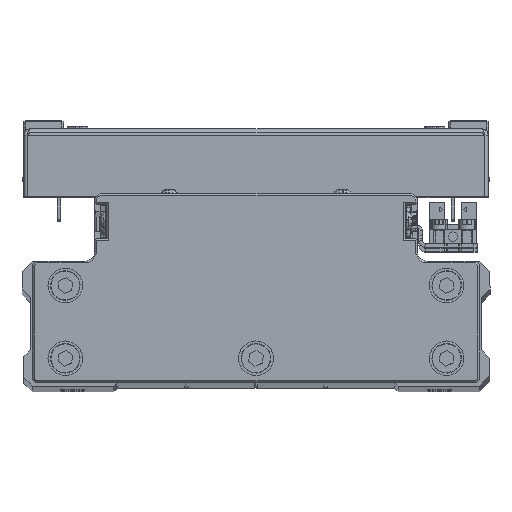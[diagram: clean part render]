
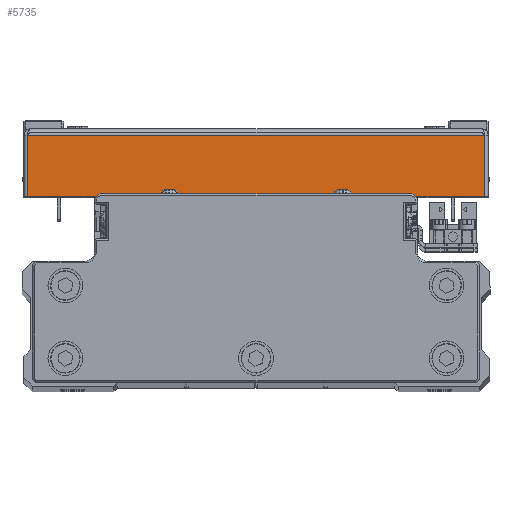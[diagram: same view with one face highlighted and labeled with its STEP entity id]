
A CAD part, top view. The second image highlights one B-rep face of the part: STEP entity #5735.
In plain terms, the highlighted planar face has unit normal (0, 0, 1) as drawn and (1, 0, 0) by its records, which use the part's own axes.
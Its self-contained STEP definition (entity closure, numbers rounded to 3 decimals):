
#267 = CARTESIAN_POINT ( 'NONE',  ( 100., 1., -65.929 ) ) ;
#5557 = CARTESIAN_POINT ( 'NONE',  ( 100., 0., 0. ) ) ;
#5735 = ADVANCED_FACE ( 'NONE', ( #22759 ), #36594, .F. ) ;
#7798 = CARTESIAN_POINT ( 'NONE',  ( 100., 1., 65.929 ) ) ;
#7964 = ORIENTED_EDGE ( 'NONE', *, *, #17321, .T. ) ;
#8862 = LINE ( 'NONE', #22665, #34352 ) ;
#9603 = VECTOR ( 'NONE', #11117, 1000. ) ;
#10581 = VECTOR ( 'NONE', #41647, 1000. ) ;
#11117 = DIRECTION ( 'NONE',  ( 0., 0., 1. ) ) ;
#13997 = LINE ( 'NONE', #27804, #10581 ) ;
#14792 = VECTOR ( 'NONE', #42636, 1000. ) ;
#14999 = LINE ( 'NONE', #28797, #14792 ) ;
#15170 = VERTEX_POINT ( 'NONE', #7798 ) ;
#15756 = EDGE_CURVE ( 'NONE', #32340, #42834, #8862, .T. ) ;
#17321 = EDGE_CURVE ( 'NONE', #42834, #24460, #28314, .T. ) ;
#19354 = DIRECTION ( 'NONE',  ( -1., 0., 0. ) ) ;
#22665 = CARTESIAN_POINT ( 'NONE',  ( 100., 0., -65.929 ) ) ;
#22759 = FACE_OUTER_BOUND ( 'NONE', #41400, .T. ) ;
#24460 = VERTEX_POINT ( 'NONE', #33550 ) ;
#25487 = ORIENTED_EDGE ( 'NONE', *, *, #33568, .F. ) ;
#27804 = CARTESIAN_POINT ( 'NONE',  ( 100., 0., 65.929 ) ) ;
#28235 = AXIS2_PLACEMENT_3D ( 'NONE', #5557, #19354, #33181 ) ;
#28314 = LINE ( 'NONE', #42156, #9603 ) ;
#28797 = CARTESIAN_POINT ( 'NONE',  ( 100., 1., 67. ) ) ;
#32340 = VERTEX_POINT ( 'NONE', #267 ) ;
#33181 = DIRECTION ( 'NONE',  ( 0., -1., 0. ) ) ;
#33550 = CARTESIAN_POINT ( 'NONE',  ( 100., 18.5, 65.929 ) ) ;
#33568 = EDGE_CURVE ( 'NONE', #32340, #15170, #14999, .T. ) ;
#34352 = VECTOR ( 'NONE', #36493, 1000. ) ;
#35589 = EDGE_CURVE ( 'NONE', #15170, #24460, #13997, .T. ) ;
#36493 = DIRECTION ( 'NONE',  ( 0., 1., 0. ) ) ;
#36594 = PLANE ( 'NONE',  #28235 ) ;
#37019 = ORIENTED_EDGE ( 'NONE', *, *, #15756, .T. ) ;
#39582 = ORIENTED_EDGE ( 'NONE', *, *, #35589, .F. ) ;
#41400 = EDGE_LOOP ( 'NONE', ( #25487, #37019, #7964, #39582 ) ) ;
#41647 = DIRECTION ( 'NONE',  ( 0., 1., 0. ) ) ;
#42156 = CARTESIAN_POINT ( 'NONE',  ( 100., 18.5, 0. ) ) ;
#42636 = DIRECTION ( 'NONE',  ( 0., 0., 1. ) ) ;
#42834 = VERTEX_POINT ( 'NONE', #43230 ) ;
#43230 = CARTESIAN_POINT ( 'NONE',  ( 100., 18.5, -65.929 ) ) ;
